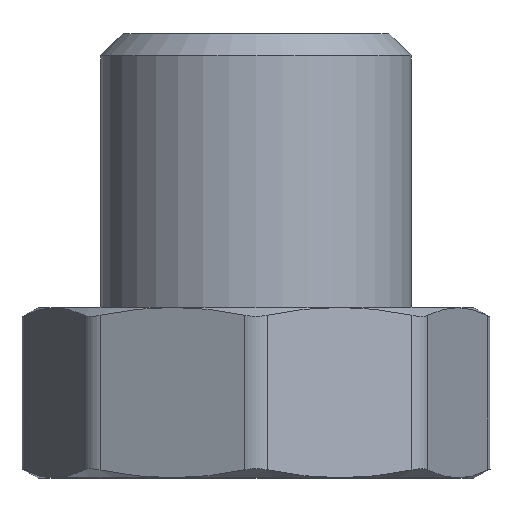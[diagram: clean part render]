
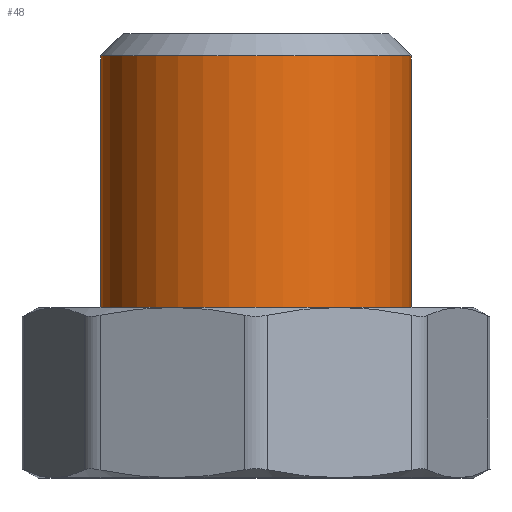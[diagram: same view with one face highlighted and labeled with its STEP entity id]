
A CAD part, top view. The second image highlights one B-rep face of the part: STEP entity #48.
In plain terms, the highlighted cylindrical face has radius 10.477 mm (diameter 20.955 mm), a full revolution.
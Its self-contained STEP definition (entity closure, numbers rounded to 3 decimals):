
#48=ADVANCED_FACE('',(#257,#259),#261,.T.);
#257=FACE_OUTER_BOUND('',#258,.T.);
#258=EDGE_LOOP('',(#1459));
#259=FACE_OUTER_BOUND('',#260,.T.);
#260=EDGE_LOOP('',(#1460));
#261=CYLINDRICAL_SURFACE('',#262,10.478);
#262=AXIS2_PLACEMENT_3D('',#263,#264,#265);
#263=CARTESIAN_POINT('',(0.,-28.5,0.));
#264=DIRECTION('',(0.,1.,0.));
#265=DIRECTION('',(-1.,0.,0.));
#1459=ORIENTED_EDGE('',*,*,#2566,.F.);
#1460=ORIENTED_EDGE('',*,*,#2561,.F.);
#2561=EDGE_CURVE('',#3010,#3010,#3011,.F.);
#2566=EDGE_CURVE('',#3020,#3020,#3021,.T.);
#3010=VERTEX_POINT('',#3763);
#3011=CIRCLE('',#3764,10.478);
#3020=VERTEX_POINT('',#3788);
#3021=CIRCLE('',#3789,10.478);
#3763=CARTESIAN_POINT('',(-10.478,-20.5,0.));
#3764=AXIS2_PLACEMENT_3D('',#3765,#3766,#3767);
#3765=CARTESIAN_POINT('',(0.,-20.5,0.));
#3766=DIRECTION('',(0.,1.,0.));
#3767=DIRECTION('',(-1.,0.,0.));
#3788=CARTESIAN_POINT('',(-10.478,-1.5,0.));
#3789=AXIS2_PLACEMENT_3D('',#3790,#3791,#3792);
#3790=CARTESIAN_POINT('',(0.,-1.5,0.));
#3791=DIRECTION('',(0.,1.,0.));
#3792=DIRECTION('',(-1.,0.,0.));
